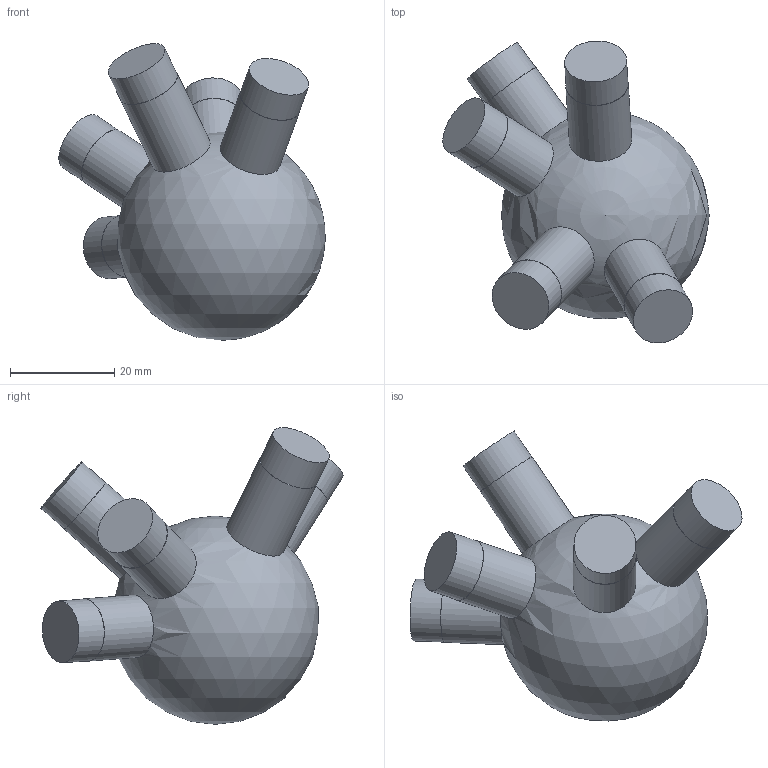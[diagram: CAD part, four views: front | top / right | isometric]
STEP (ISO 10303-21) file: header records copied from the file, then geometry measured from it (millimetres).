
FILE_DESCRIPTION(('Open CASCADE Model'),'2;1');
FILE_NAME('Open CASCADE Shape Model','2026-10-21T12:47:57',('Author'),( 'Open CASCADE'),'Open CASCADE STEP processor 7.9','Open CASCADE 7.9' ,'Unknown');
FILE_SCHEMA(('AUTOMOTIVE_DESIGN { 1 0 10303 214 1 1 1 1 }'));
Length unit declared in the file: millimetre
Products named in the file (1): Open CASCADE STEP translator 7.9 147
Bounding box: 51.13 x 58 x 56.96 mm (x, y, z)
Volume: 44088 mm3; surface area: 8636 mm2
Topology: 1 solids, 1 shells, 21 faces, 33 edges, 22 vertices
Faces by surface type: cylinder 10, plane 10, sphere 1
Full cylindrical faces by diameter (mm): 11.9 x5, 12 x5
Entity records: 1185 total; most frequent: CARTESIAN_POINT 460, DIRECTION 149, ORIENTED_EDGE 60, PCURVE 60, DEFINITIONAL_REPRESENTATION 60, LINE 50, VECTOR 50, AXIS2_PLACEMENT_3D 42
